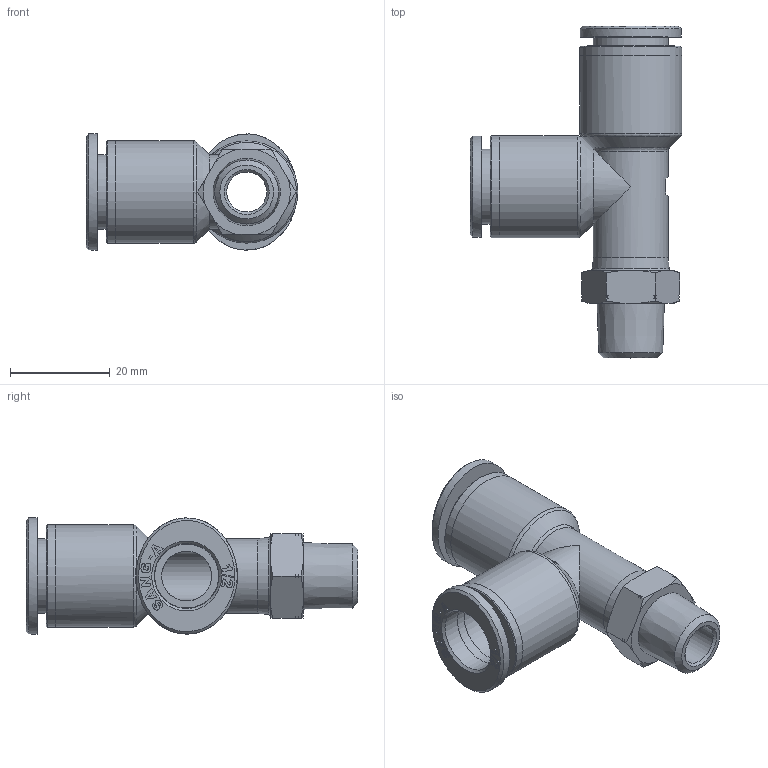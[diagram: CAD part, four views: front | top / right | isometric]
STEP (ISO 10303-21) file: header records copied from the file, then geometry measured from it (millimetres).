
FILE_DESCRIPTION((''),'2;1');
FILE_NAME('C:\Users\user0117\Desktop\김진일\G-FITTING INCH\1-2\G-FITTING INCH (STEP)\GPST 1_2-R02.stp','2020-04-23T10:50:19',('user0117'),(''),'Autodesk Inventor 2013','Autodesk Inventor 2013','');
FILE_SCHEMA(('AUTOMOTIVE_DESIGN { 1 0 10303 214 1 1 1 1 }'));
Length unit declared in the file: millimetre
Products named in the file (6): GPST 1_2-R02; GPL BODY 1-2 R02(BRASS); GPST BODY 1-2(PLASTIC); G-COLLAR 1-2L; COLLAR G1-2L; SLEEVE G1-2
Assembly tree (6 placements, depth 3):
  GPST 1_2-R02
    GPL BODY 1-2 R02(BRASS)
    GPST BODY 1-2(PLASTIC)
    G-COLLAR 1-2L  x2
      COLLAR G1-2L
      SLEEVE G1-2
Bounding box: 42.45 x 66.55 x 23.28 mm (x, y, z)
Volume: 14500 mm3; surface area: 11467.8 mm2
Topology: 6 solids, 6 shells, 683 faces, 1920 edges, 1279 vertices
Faces by surface type: plane 575, cone 50, cylinder 28, bspline 26, torus 4
Full cylindrical faces by diameter (mm): 8 x1, 9.5 x1, 10 x2, 13 x6, 14.1 x1, 15 x3, 20.5 x4
Entity records: 12330 total; most frequent: CARTESIAN_POINT 2688, ORIENTED_EDGE 2064, DIRECTION 1772, EDGE_CURVE 1032, VECTOR 832, LINE 832, VERTEX_POINT 702, AXIS2_PLACEMENT_3D 470
